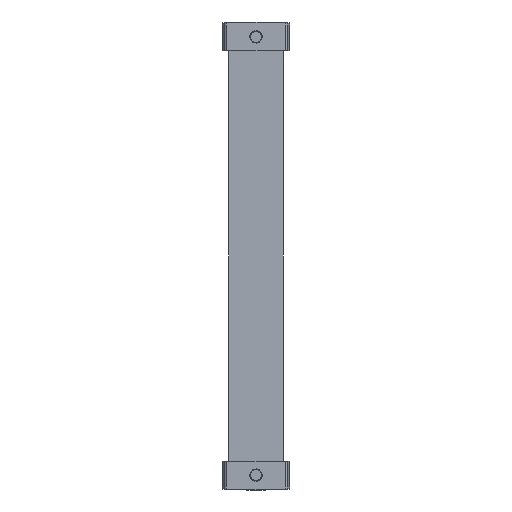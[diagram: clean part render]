
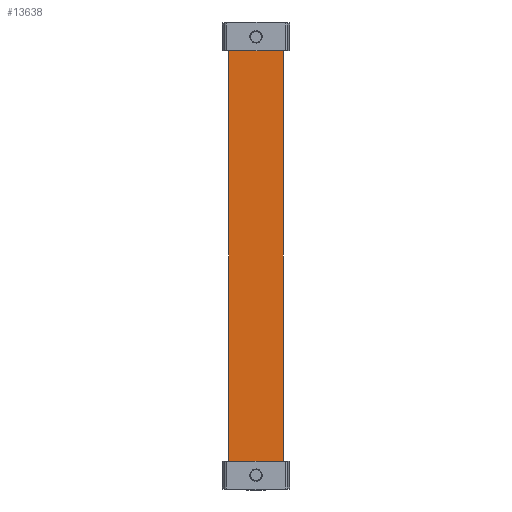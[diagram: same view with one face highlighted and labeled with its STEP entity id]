
A CAD part, front view. The second image highlights one B-rep face of the part: STEP entity #13638.
In plain terms, the highlighted planar face has unit normal (0, -1, 0).
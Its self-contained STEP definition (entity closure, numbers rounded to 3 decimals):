
#1582 = ORIENTED_EDGE ( 'NONE', *, *, #13701, .F. ) ;
#13633 = EDGE_CURVE ( 'NONE', #13634, #13659, #38840, .T. ) ;
#13634 = VERTEX_POINT ( 'NONE', #38836 ) ;
#13638 = ADVANCED_FACE ( 'NONE', ( #38831 ), #38830, .F. ) ;
#13639 = EDGE_LOOP ( 'NONE', ( #13640, #13643, #1582, #13702 ) ) ;
#13640 = ORIENTED_EDGE ( 'NONE', *, *, #13641, .T. ) ;
#13641 = EDGE_CURVE ( 'NONE', #13659, #13642, #38825, .T. ) ;
#13642 = VERTEX_POINT ( 'NONE', #38821 ) ;
#13643 = ORIENTED_EDGE ( 'NONE', *, *, #13644, .F. ) ;
#13644 = EDGE_CURVE ( 'NONE', #13645, #13642, #38820, .T. ) ;
#13645 = VERTEX_POINT ( 'NONE', #38816 ) ;
#13659 = VERTEX_POINT ( 'NONE', #38855 ) ;
#13701 = EDGE_CURVE ( 'NONE', #13634, #13645, #38970, .T. ) ;
#13702 = ORIENTED_EDGE ( 'NONE', *, *, #13633, .T. ) ;
#38816 = CARTESIAN_POINT ( 'NONE',  ( 29., -29., 440. ) ) ;
#38817 = DIRECTION ( 'NONE',  ( 0., 0., -1. ) ) ;
#38818 = VECTOR ( 'NONE', #38817, 1000. ) ;
#38819 = CARTESIAN_POINT ( 'NONE',  ( 29., -29., 440. ) ) ;
#38820 = LINE ( 'NONE', #38819, #38818 ) ;
#38821 = CARTESIAN_POINT ( 'NONE',  ( 29., -29., 0. ) ) ;
#38822 = DIRECTION ( 'NONE',  ( 1., 0., 0. ) ) ;
#38823 = VECTOR ( 'NONE', #38822, 1000. ) ;
#38824 = CARTESIAN_POINT ( 'NONE',  ( -29., -29., 0. ) ) ;
#38825 = LINE ( 'NONE', #38824, #38823 ) ;
#38826 = DIRECTION ( 'NONE',  ( -1., 0., 0. ) ) ;
#38827 = DIRECTION ( 'NONE',  ( 0., 1., 0. ) ) ;
#38828 = CARTESIAN_POINT ( 'NONE',  ( -29., -29., 440. ) ) ;
#38829 = AXIS2_PLACEMENT_3D ( 'NONE', #38828, #38827, #38826 ) ;
#38830 = PLANE ( 'NONE',  #38829 ) ;
#38831 = FACE_OUTER_BOUND ( 'NONE', #13639, .T. ) ;
#38836 = CARTESIAN_POINT ( 'NONE',  ( -29., -29., 440. ) ) ;
#38837 = DIRECTION ( 'NONE',  ( 0., 0., -1. ) ) ;
#38838 = VECTOR ( 'NONE', #38837, 1000. ) ;
#38839 = CARTESIAN_POINT ( 'NONE',  ( -29., -29., 440. ) ) ;
#38840 = LINE ( 'NONE', #38839, #38838 ) ;
#38855 = CARTESIAN_POINT ( 'NONE',  ( -29., -29., 0. ) ) ;
#38967 = DIRECTION ( 'NONE',  ( 1., 0., 0. ) ) ;
#38968 = VECTOR ( 'NONE', #38967, 1000. ) ;
#38969 = CARTESIAN_POINT ( 'NONE',  ( -29., -29., 440. ) ) ;
#38970 = LINE ( 'NONE', #38969, #38968 ) ;
